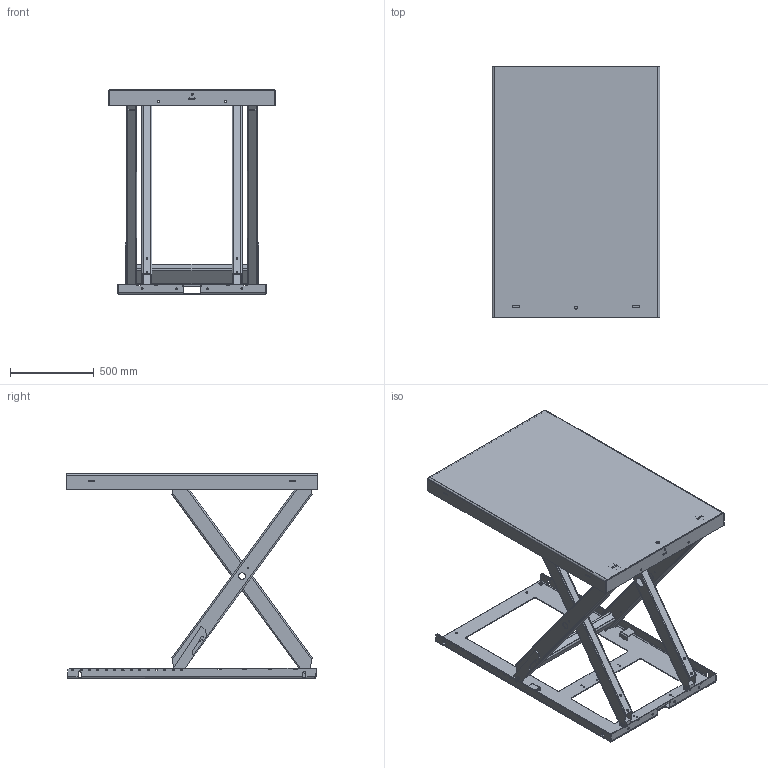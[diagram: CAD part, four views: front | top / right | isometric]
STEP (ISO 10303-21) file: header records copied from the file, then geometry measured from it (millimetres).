
FILE_DESCRIPTION(/* description */ ('Plåt'),/* implementation_level */ '2;1');
FILE_NAME(/* name */ '\\EDMOFILE01\Users$\JOHSO\Desktop\STP\22253_Topp.stp',/* time_stamp */ '2016-04-25T16:15:05+02:00',/* author */ ('JOHSO'),/* organization */ (''),/* preprocessor_version */ 'ST-DEVELOPER v15.6',/* originating_system */ 'Autodesk Inventor 2015',/* authorisation */ '');
FILE_SCHEMA (('AUTOMOTIVE_DESIGN { 1 0 10303 214 3 1 1 }'));
Length unit declared in the file: millimetre
Products named in the file (20): 36621-1; 45259; 44870; 36621; 82148-1310; 36613-2; Copy of ISO 4019 - 120x60x6 - 660; 36616; 82148-1310_1; 36613-1; 36615; 36617; 36619-1; 45387; 44608; 85955; 80131; 36619; 33048; 22253_TEMP
Assembly tree (35 placements, depth 5):
  22253_TEMP
    36621
      36621-1
      45259  x2
      44870  x2
    36617
      36616
        36613-2  x2
          82148-1310
        Copy of ISO 4019 - 120x60x6 - 660
      36615
        36613-1  x2
          82148-1310_1
    36619
      36619-1
      45259  x2
      45387  x6
      44608  x2
      85955
      80131  x4
    33048  x2
Bounding box: 1000 x 1500 x 1220 mm (x, y, z)
Volume: 23933057.5 mm3; surface area: 9391528.3 mm2
Topology: 28 solids, 28 shells, 1142 faces, 3155 edges, 2065 vertices
Faces by surface type: plane 558, cylinder 516, cone 48, bspline 14, torus 6
Full cylindrical faces by diameter (mm): 5.55 x2, 6.5 x2, 6.8 x8, 7.4 x8, 8 x4, 10.5 x12, 11.63 x4, 12.5 x6, 13 x6, 13.835 x5, 14.2 x16, 18.8 x2, 19 x1, 23 x2, 28.1 x4, 40.2 x4, 60 x4
Entity records: 26230 total; most frequent: CARTESIAN_POINT 4899, DIRECTION 4462, ORIENTED_EDGE 4238, EDGE_CURVE 2119, AXIS2_PLACEMENT_3D 1584, VERTEX_POINT 1429, LINE 1294, VECTOR 1294
